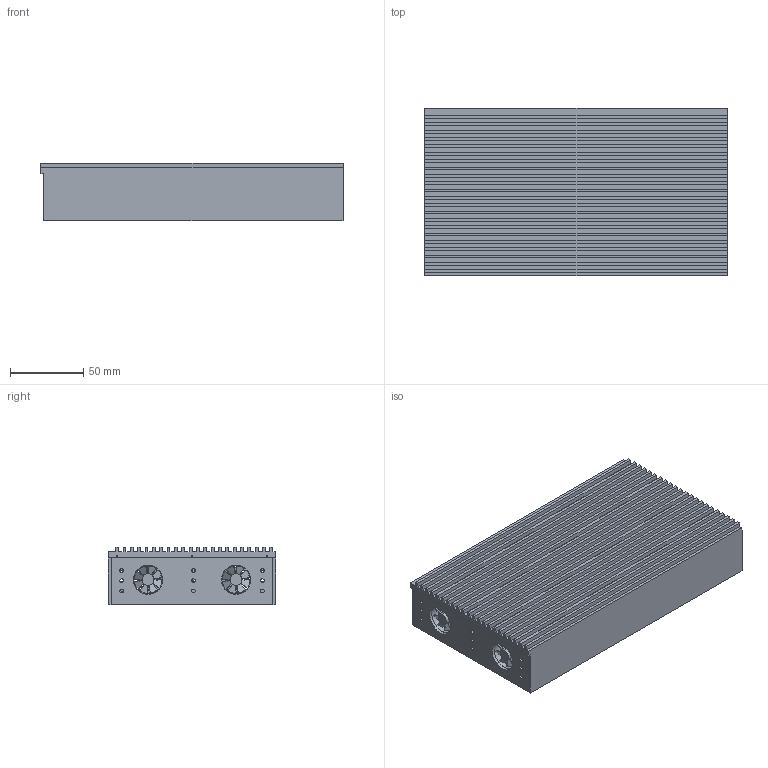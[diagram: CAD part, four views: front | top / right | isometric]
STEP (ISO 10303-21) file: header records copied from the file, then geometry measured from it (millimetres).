
FILE_DESCRIPTION( ( 'STEP Version 203' ), '1' );
FILE_NAME( 'D:/WorkFiles/Simulation/Training/IntroTraining/V16_0/InputFiles/Day 3/WorkshopGeometryDay3.stp', '10/02/15 09:28:34', ( 'jharvest' ), ( ' ' ), 'PSStep 17.0.49', 'DesignModeler STEP Output', ' ' );
FILE_SCHEMA( ( 'AUTOMOTIVE_DESIGN { 1 0 10303 214 1 1 1 1 }' ) );
Length unit declared in the file: metre
Products named in the file (23): casing.1; Board; Right-fan-casing; Right-fan; Left-fan-casing; Left-fan; AGP_Heatsink; DDR.1; DDR.2; DDR.3; DDR.4; Large-flash; AGP-die; AGP-die-pad; Bridge-die; Small-flash; AGP-mold; Bridge_mold; AGP-substrate; Bridge_substrate; AGP-solder-balls; Bridge-solder-balls; casing.2
Bounding box: 206 x 114 x 39 mm (x, y, z)
Volume: 216212.6 mm3; surface area: 248025.4 mm2
Topology: 23 solids, 23 shells, 573 faces, 1560 edges, 1047 vertices
Faces by surface type: plane 357, cylinder 147, bspline 68, offset 1
Full cylindrical faces by diameter (mm): 1 x6, 1.2 x8, 2.5 x9, 8 x2, 20 x2
Entity records: 19992 total; most frequent: CARTESIAN_POINT 5619, ORIENTED_EDGE 3048, DIRECTION 2653, EDGE_CURVE 1524, VERTEX_POINT 1042, LINE 931, VECTOR 931, AXIS2_PLACEMENT_3D 861
